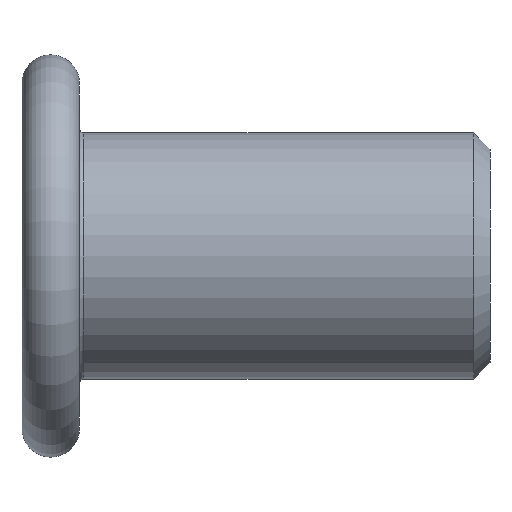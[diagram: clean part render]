
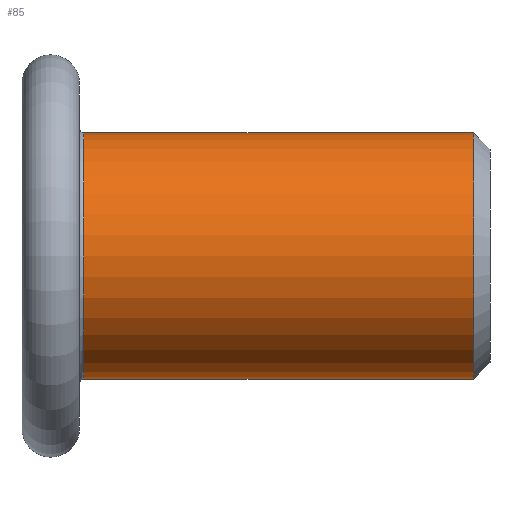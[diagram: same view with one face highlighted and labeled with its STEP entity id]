
A CAD part, front view. The second image highlights one B-rep face of the part: STEP entity #85.
In plain terms, the highlighted cylindrical face has radius 3 mm (diameter 6 mm), a partial arc.
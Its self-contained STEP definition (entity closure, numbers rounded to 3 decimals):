
#24 = ORIENTED_EDGE ( 'NONE', *, *, #358, .T. ) ;
#27 = EDGE_CURVE ( 'NONE', #536, #383, #331, .T. ) ;
#32 = CARTESIAN_POINT ( 'NONE',  ( 0., 0., 3. ) ) ;
#37 = EDGE_CURVE ( 'NONE', #627, #383, #43, .T. ) ;
#43 = CIRCLE ( 'NONE', #297, 3. ) ;
#85 = ADVANCED_FACE ( 'NONE', ( #604 ), #437, .T. ) ;
#87 = CARTESIAN_POINT ( 'NONE',  ( 0., 0., 0. ) ) ;
#92 = DIRECTION ( 'NONE',  ( 1., 0., 0. ) ) ;
#105 = AXIS2_PLACEMENT_3D ( 'NONE', #87, #503, #342 ) ;
#113 = VERTEX_POINT ( 'NONE', #386 ) ;
#137 = CIRCLE ( 'NONE', #179, 3. ) ;
#179 = AXIS2_PLACEMENT_3D ( 'NONE', #603, #542, #594 ) ;
#191 = DIRECTION ( 'NONE',  ( 1., 0., 0. ) ) ;
#202 = VECTOR ( 'NONE', #191, 1000. ) ;
#223 = ORIENTED_EDGE ( 'NONE', *, *, #432, .T. ) ;
#270 = ORIENTED_EDGE ( 'NONE', *, *, #37, .T. ) ;
#285 = DIRECTION ( 'NONE',  ( 0., 0., -1. ) ) ;
#297 = AXIS2_PLACEMENT_3D ( 'NONE', #653, #396, #285 ) ;
#331 = LINE ( 'NONE', #32, #475 ) ;
#342 = DIRECTION ( 'NONE',  ( 0., 0., -1. ) ) ;
#346 = LINE ( 'NONE', #559, #202 ) ;
#357 = CARTESIAN_POINT ( 'NONE',  ( 11., 0., -3. ) ) ;
#358 = EDGE_CURVE ( 'NONE', #536, #113, #137, .T. ) ;
#383 = VERTEX_POINT ( 'NONE', #655 ) ;
#386 = CARTESIAN_POINT ( 'NONE',  ( 1.5, 0., -3. ) ) ;
#396 = DIRECTION ( 'NONE',  ( -1., 0., 0. ) ) ;
#432 = EDGE_CURVE ( 'NONE', #113, #627, #346, .T. ) ;
#437 = CYLINDRICAL_SURFACE ( 'NONE', #105, 3. ) ;
#459 = ORIENTED_EDGE ( 'NONE', *, *, #27, .F. ) ;
#475 = VECTOR ( 'NONE', #92, 1000. ) ;
#503 = DIRECTION ( 'NONE',  ( 1., 0., 0. ) ) ;
#507 = CARTESIAN_POINT ( 'NONE',  ( 1.5, 0., 3. ) ) ;
#536 = VERTEX_POINT ( 'NONE', #507 ) ;
#542 = DIRECTION ( 'NONE',  ( 1., 0., 0. ) ) ;
#559 = CARTESIAN_POINT ( 'NONE',  ( 0., 0., -3. ) ) ;
#594 = DIRECTION ( 'NONE',  ( 0., 0., -1. ) ) ;
#603 = CARTESIAN_POINT ( 'NONE',  ( 1.5, 0., 0. ) ) ;
#604 = FACE_OUTER_BOUND ( 'NONE', #634, .T. ) ;
#627 = VERTEX_POINT ( 'NONE', #357 ) ;
#634 = EDGE_LOOP ( 'NONE', ( #459, #24, #223, #270 ) ) ;
#653 = CARTESIAN_POINT ( 'NONE',  ( 11., 0., 0. ) ) ;
#655 = CARTESIAN_POINT ( 'NONE',  ( 11., 0., 3. ) ) ;
